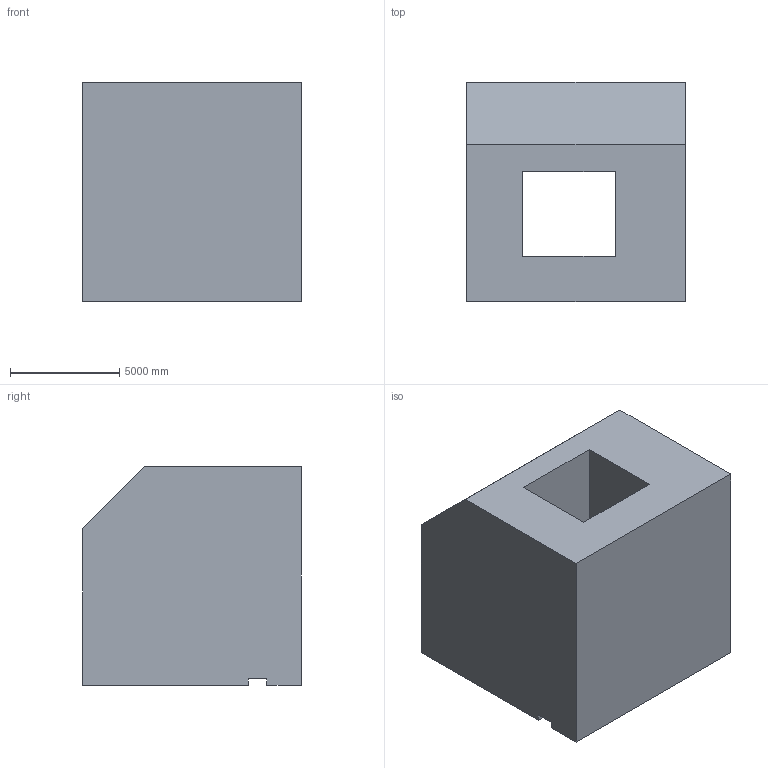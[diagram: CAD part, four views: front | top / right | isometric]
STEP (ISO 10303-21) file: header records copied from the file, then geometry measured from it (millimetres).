
FILE_DESCRIPTION (( 'STEP AP203' ), '1' );
FILE_NAME ('24.STEP', '2022-09-02T13:43:01', ( 'user' ), ( '' ), 'SwSTEP 2.0', 'SolidWorks 2021', '' );
FILE_SCHEMA (( 'CONFIG_CONTROL_DESIGN' ));
Length unit declared in the file: centimetre
Products named in the file (1): 24
Bounding box: 10000 x 10000 x 10000 mm (x, y, z)
Volume: 792429758982.2 mm3; surface area: 707690918.8 mm2
Topology: 1 solids, 1 shells, 16 faces, 45 edges, 30 vertices
Faces by surface type: plane 16
Entity records: 590 total; most frequent: CARTESIAN_POINT 92, ORIENTED_EDGE 90, DIRECTION 79, VECTOR 45, LINE 45, EDGE_CURVE 45, VERTEX_POINT 30, EDGE_LOOP 17
